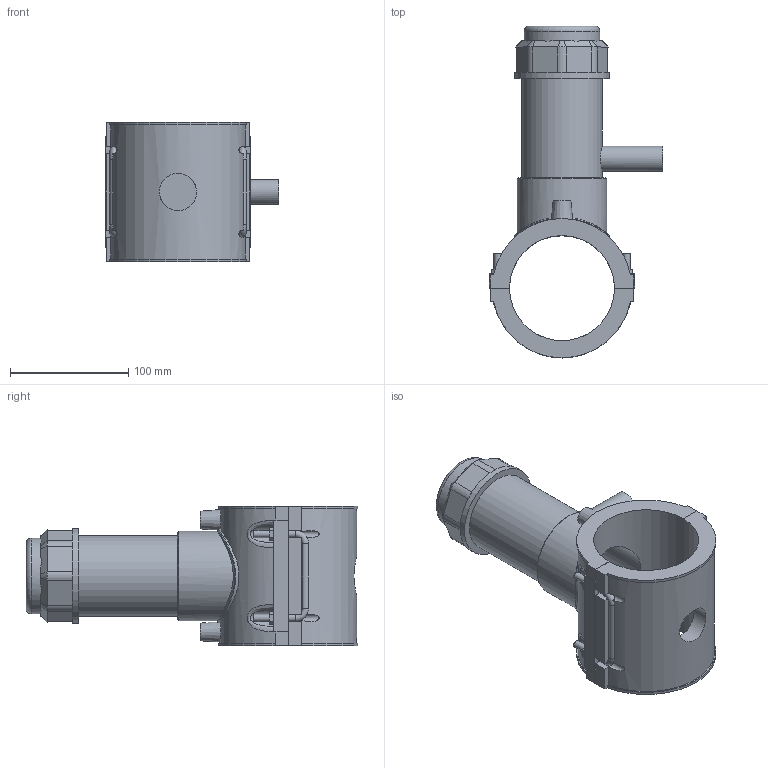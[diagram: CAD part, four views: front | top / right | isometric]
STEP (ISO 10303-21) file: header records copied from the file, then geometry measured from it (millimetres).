
FILE_DESCRIPTION(/* description */ ('PLASSON TAPPING SADDLE 3''''IPS x 1 1/2''''IPS'),/* implementation_level */ '2;1');
FILE_NAME(/* name */ 'C:\Dropbox\KIMPROJECTS-Inventor 2019\99-16-3568-Processing Inch\ASTM ElectroFusion 2021\5963B\5963BB03030005.ipt.stp',/* time_stamp */ '2021-08-30T09:55:05+03:00',/* author */ ('KIM'),/* organization */ (''),/* preprocessor_version */ 'ST-DEVELOPER v17.2',/* originating_system */ 'Autodesk Inventor 2019',/* authorisation */ '');
FILE_SCHEMA (('AUTOMOTIVE_DESIGN { 1 0 10303 214 3 1 1 }'));
Length unit declared in the file: millimetre
Products named in the file (1): 5963BB03030005
Bounding box: 146.54 x 280.2 x 118.11 mm (x, y, z)
Volume: 851521.1 mm3; surface area: 171430.1 mm2
Topology: 1 solids, 1 shells, 211 faces, 568 edges, 375 vertices
Faces by surface type: plane 128, cylinder 57, cone 15, bspline 6, torus 5
Full cylindrical faces by diameter (mm): 4 x2, 6 x7, 10 x2, 16.96 x1, 21.2 x1, 31.36 x1, 55.881 x1, 63.864 x1, 67.856 x1, 75.838 x1, 79.83 x1
Entity records: 8453 total; most frequent: CARTESIAN_POINT 3066, ORIENTED_EDGE 1158, DIRECTION 1055, EDGE_CURVE 579, VERTEX_POINT 375, AXIS2_PLACEMENT_3D 357, LINE 341, VECTOR 341
